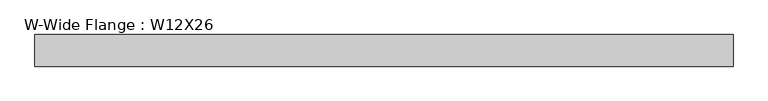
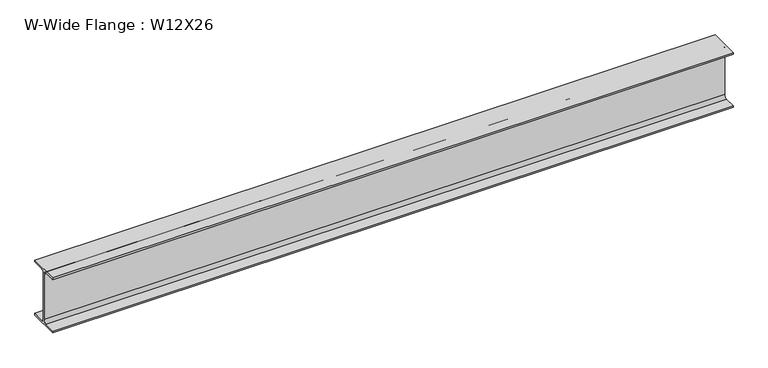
"""IFC4 building model written with IfcOpenShell, lengths in millimetres: beam geometry, W-Wide Flange : W12X26."""

from ifc_helpers import new_model, si_unit, point, frame, frame_2d, origin, place, context, project, spatial, polyline, circle_curve, trimmed, segment, composite_curve, outline, extrude, source, transform, mapped, element, save


def w_wide_flange_w12x26_c037be30(model_context):
    return source(origin(), model_context, "Body", "SweptSolid", [
        extrude(outline(composite_curve([segment(polyline([(82.4011719, -145.5539063), (82.4011719, -155.178125), (-82.4011719, -155.178125), (-82.4011719, -145.5539063), (-20.2902344, -145.5539063)]), True, "CONTINUOUS"), segment(trimmed(circle_curve(frame_2d((-20.2902344, -128.190625)), 17.3632812), [point((-20.2902344, -145.5539063))], [point((-2.9269531, -128.190625))], True, "CARTESIAN"), True, "CONTINUOUS"), segment(polyline([(-2.9269531, -128.190625), (-2.9269531, 128.190625)]), True, "CONTINUOUS"), segment(trimmed(circle_curve(frame_2d((-20.2902344, 128.190625)), 17.3632812), [point((-2.9269531, 128.190625))], [point((-20.2902344, 145.5539062))], True, "CARTESIAN"), True, "CONTINUOUS"), segment(polyline([(-20.2902344, 145.5539062), (-82.4011719, 145.5539062), (-82.4011719, 155.178125), (82.4011719, 155.178125), (82.4011719, 145.5539062), (20.2902344, 145.5539062)]), True, "CONTINUOUS"), segment(trimmed(circle_curve(frame_2d((20.2902344, 128.190625)), 17.3632812), [point((20.2902344, 145.5539062))], [point((2.9269531, 128.190625))], True, "CARTESIAN"), True, "CONTINUOUS"), segment(polyline([(2.9269531, 128.190625), (2.9269531, -128.190625)]), True, "CONTINUOUS"), segment(trimmed(circle_curve(frame_2d((20.2902344, -128.190625)), 17.3632812), [point((2.9269531, -128.190625))], [point((20.2902344, -145.5539063))], True, "CARTESIAN"), True, "CONTINUOUS"), segment(polyline([(20.2902344, -145.5539063), (82.4011719, -145.5539063)]), True, "CONTINUOUS")], self_intersect=False)), frame((-1793.6401549, 0.0, 0.0), z_axis=(1.0, 0.0, 0.0), x_axis=(0.0, 1.0, 0.0)), (0.0, 0.0, 1.0), 3641.6941497),
    ])


if __name__ == "__main__":
    model = new_model("IFC4")
    model_context = context("Model", 3, world=origin())
    ifc_project = project(units=[si_unit("LENGTHUNIT", "METRE", prefix="MILLI")], contexts=[model_context])
    site = spatial("IfcSite", under=ifc_project)
    building = spatial("IfcBuilding", under=site)
    placement = place(None, origin())
    w_wide_flange_w12x26_shape = w_wide_flange_w12x26_c037be30(model_context)
    element("IfcBeam", 1, ObjectType="W-Wide Flange : W12X26", at=placement, inside=building, context=model_context, shape_type="MappedRepresentation", body=[
        mapped(w_wide_flange_w12x26_shape, transform((0.0, 0.0, 0.0), x_axis=(1.0, 0.0, 0.0), y_axis=(0.0, 1.0, 0.0), z_axis=(0.0, 0.0, 1.0))),
    ])
    save(model, "model.ifc")
